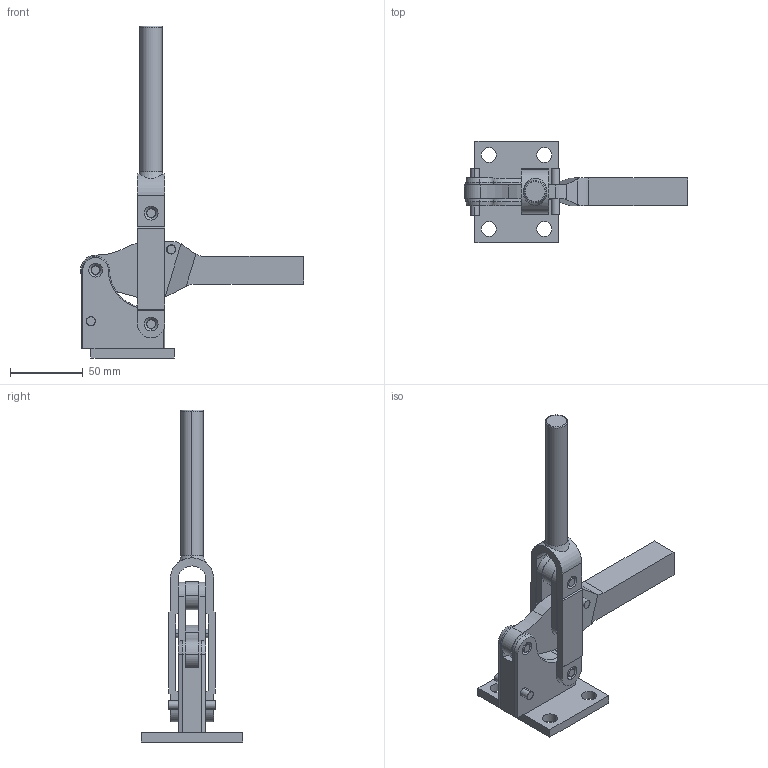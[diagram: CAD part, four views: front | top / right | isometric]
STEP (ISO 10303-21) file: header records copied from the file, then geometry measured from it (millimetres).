
FILE_DESCRIPTION( ( '' ), '1' );
FILE_NAME( 'C:\Documents and Settings\Richard Grenzke\My Documents\Wolverine Company Data\WOLVERINE CD 5_17_05\SOLIDS STEP\hold_down\cq910a.stp', ' ', ( '' ), ( '' ), 'ACIS Interop R16', 'Kubotek KeyCreator V5.5.1 (0454)', ' ' );
FILE_SCHEMA( ( 'CONFIG_CONTROL_DESIGN' ) );
Length unit declared in the file: inch
Products named in the file (13): 1; 2; 3; 4; 5; 6; 7; 8; 9; 10; 11; 12; 13
Bounding box: 153.29 x 69.85 x 228.13 mm (x, y, z)
Volume: 168017.2 mm3; surface area: 58710.3 mm2
Topology: 12 solids, 12 shells, 194 faces, 514 edges, 344 vertices
Faces by surface type: cylinder 84, plane 78, cone 30, torus 2
Entity records: 6851 total; most frequent: DIRECTION 1166, CARTESIAN_POINT 1144, ORIENTED_EDGE 1028, EDGE_CURVE 514, AXIS2_PLACEMENT_3D 452, VERTEX_POINT 344, LINE 262, VECTOR 262
